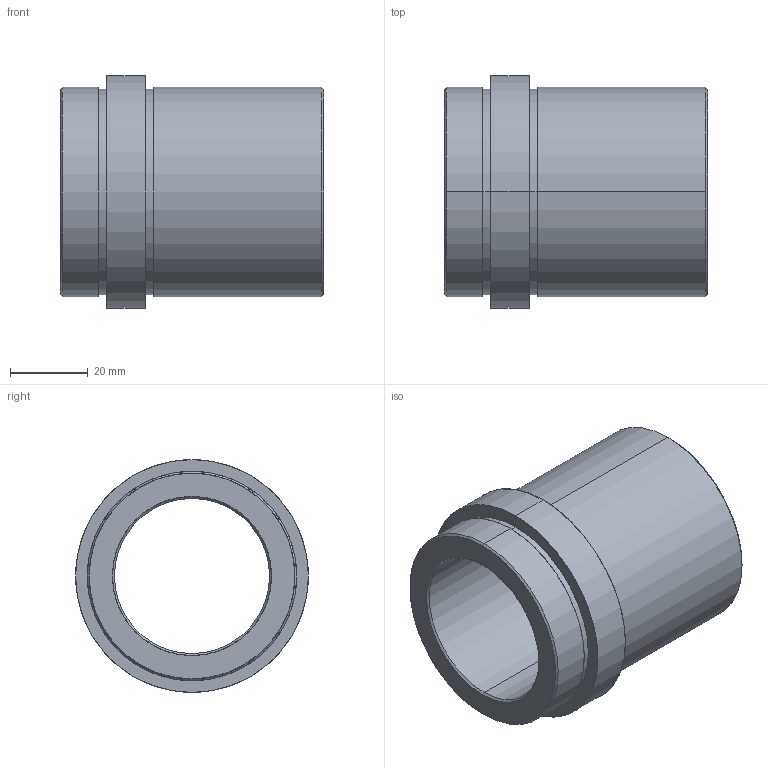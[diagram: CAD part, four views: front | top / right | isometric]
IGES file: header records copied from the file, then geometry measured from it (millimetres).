
Start section: SolidWorks IGES file using analytic representation for surfaces
Global section: file name: C:\Users\Dell\Desktop\deltakont\kontrol edilecekler\D21\Ø40\D21_40x56.IGS; native system: SolidWorks 2010; preprocessor: SolidWorks 2010; author: Dell; date: 111229.211512; units: millimetre
Bounding box: 68 x 60 x 60 mm (x, y, z)
Surface area: 23561.7 mm2 (no closed solid volume)
Topology: 0 solids, 0 shells, 26 faces, 848 edges, 848 vertices
Faces by surface type: revolution 20, bspline 6
